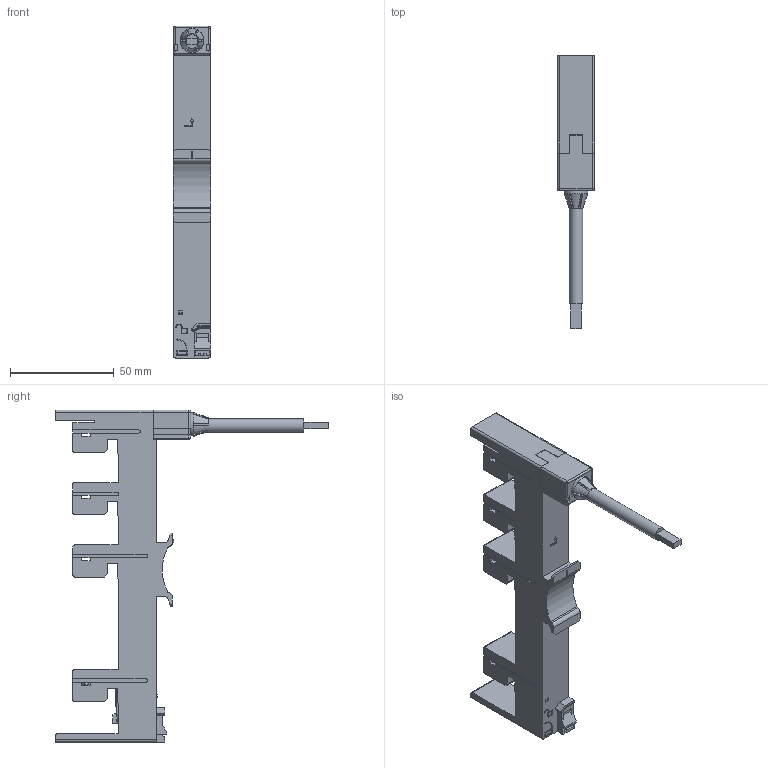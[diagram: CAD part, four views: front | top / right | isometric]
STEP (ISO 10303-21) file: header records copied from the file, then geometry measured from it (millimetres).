
FILE_DESCRIPTION (( 'STEP AP214' ), '1' );
FILE_NAME ('55627.STEP', '2021-01-16T06:45:15', ( '' ), ( '' ), 'SwSTEP 2.0', 'SolidWorks 2017', '' );
FILE_SCHEMA (( 'AUTOMOTIVE_DESIGN' ));
Length unit declared in the file: millimetre
Products named in the file (2): 55627
Bounding box: 18 x 131.7 x 160 mm (x, y, z)
Volume: 86392.1 mm3; surface area: 29918.3 mm2
Topology: 3 solids, 5 shells, 612 faces, 1747 edges, 1128 vertices
Faces by surface type: plane 464, cylinder 115, bspline 27, torus 4, sphere 2
Full cylindrical faces by diameter (mm): 6.5 x1, 9.5 x1, 11.5 x1
Entity records: 22138 total; most frequent: CARTESIAN_POINT 5716, ORIENTED_EDGE 3474, DIRECTION 3034, EDGE_CURVE 1737, VECTOR 1414, LINE 1414, VERTEX_POINT 1126, AXIS2_PLACEMENT_3D 810
